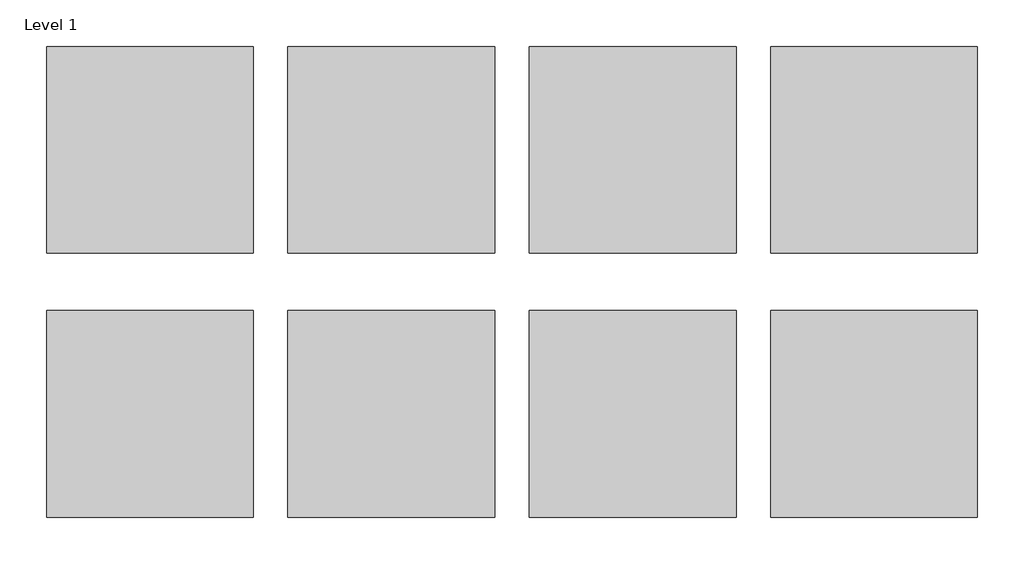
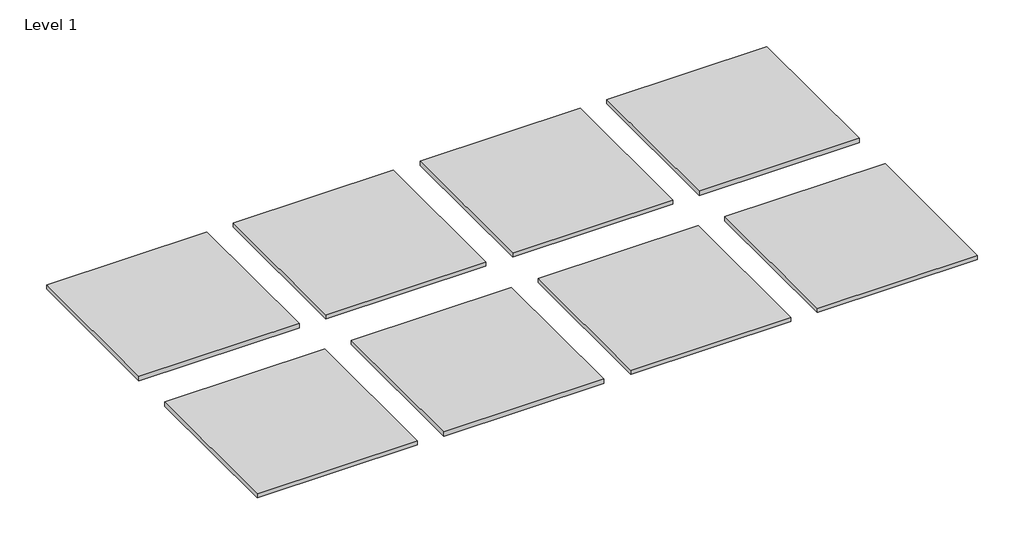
# One storey: 8 proxies.
"""IFC4 building model written with IfcOpenShell, lengths in millimetres."""

from ifc_helpers import new_model, si_unit, origin, place, context, project, spatial, transform, mapped, element, save
from components import materialsample_type_1_19775645

model = new_model("IFC4")

# Units and contexts
model_context = context("Model", 3, world=origin())
ifc_project = project(units=[si_unit("LENGTHUNIT", "METRE", prefix="MILLI")], contexts=[model_context])

# Site, building, storey
site = spatial("IfcSite", under=ifc_project)
building = spatial("IfcBuilding", under=site)
storey = spatial("IfcBuildingStorey", under=building, Name="Level 1", Elevation=0.0)

# Proxies
placement = place(None, origin())
materialsample_type_1_shape = materialsample_type_1_19775645(model_context)
element("IfcBuildingElementProxy", 1, Name="MaterialSample : Type 1", ObjectType="MaterialSample : Type 1", at=placement, inside=storey, context=model_context, shape_type="MappedRepresentation", body=[
    mapped(materialsample_type_1_shape, transform((0.0, 0.0, 0.0), x_axis=(1.0, 0.0, 0.0), y_axis=(0.0, 1.0, 0.0), z_axis=(0.0, 0.0, 1.0))),
])
element("IfcBuildingElementProxy", 2, Name="MaterialSample : Type 1", ObjectType="MaterialSample : Type 1", at=placement, inside=storey, context=model_context, shape_type="MappedRepresentation", body=[
    mapped(materialsample_type_1_shape, transform((1066.8, 0.0, 0.0), x_axis=(1.0, 0.0, 0.0), y_axis=(0.0, 1.0, 0.0), z_axis=(0.0, 0.0, 1.0))),
])
element("IfcBuildingElementProxy", 3, Name="MaterialSample : Type 1", ObjectType="MaterialSample : Type 1", at=placement, inside=storey, context=model_context, shape_type="MappedRepresentation", body=[
    mapped(materialsample_type_1_shape, transform((2133.6, 0.0, 0.0), x_axis=(1.0, 0.0, 0.0), y_axis=(0.0, 1.0, 0.0), z_axis=(0.0, 0.0, 1.0))),
])
element("IfcBuildingElementProxy", 4, Name="MaterialSample : Type 1", ObjectType="MaterialSample : Type 1", at=placement, inside=storey, context=model_context, shape_type="MappedRepresentation", body=[
    mapped(materialsample_type_1_shape, transform((3200.4, 0.0, 0.0), x_axis=(1.0, 0.0, 0.0), y_axis=(0.0, 1.0, 0.0), z_axis=(0.0, 0.0, 1.0))),
])
element("IfcBuildingElementProxy", 5, Name="MaterialSample : Type 1", ObjectType="MaterialSample : Type 1", at=placement, inside=storey, context=model_context, shape_type="MappedRepresentation", body=[
    mapped(materialsample_type_1_shape, transform((0.0, -1168.4, 0.0), x_axis=(1.0, 0.0, 0.0), y_axis=(0.0, 1.0, 0.0), z_axis=(0.0, 0.0, 1.0))),
])
element("IfcBuildingElementProxy", 6, Name="MaterialSample : Type 1", ObjectType="MaterialSample : Type 1", at=placement, inside=storey, context=model_context, shape_type="MappedRepresentation", body=[
    mapped(materialsample_type_1_shape, transform((1066.8, -1168.4, 0.0), x_axis=(1.0, 0.0, 0.0), y_axis=(0.0, 1.0, 0.0), z_axis=(0.0, 0.0, 1.0))),
])
element("IfcBuildingElementProxy", 7, Name="MaterialSample : Type 1", ObjectType="MaterialSample : Type 1", at=placement, inside=storey, context=model_context, shape_type="MappedRepresentation", body=[
    mapped(materialsample_type_1_shape, transform((2133.6, -1168.4, 0.0), x_axis=(1.0, 0.0, 0.0), y_axis=(0.0, 1.0, 0.0), z_axis=(0.0, 0.0, 1.0))),
])
element("IfcBuildingElementProxy", 8, Name="MaterialSample : Type 1", ObjectType="MaterialSample : Type 1", at=placement, inside=storey, context=model_context, shape_type="MappedRepresentation", body=[
    mapped(materialsample_type_1_shape, transform((3200.4, -1168.4, 0.0), x_axis=(1.0, 0.0, 0.0), y_axis=(0.0, 1.0, 0.0), z_axis=(0.0, 0.0, 1.0))),
])

save(model, "model.ifc")
